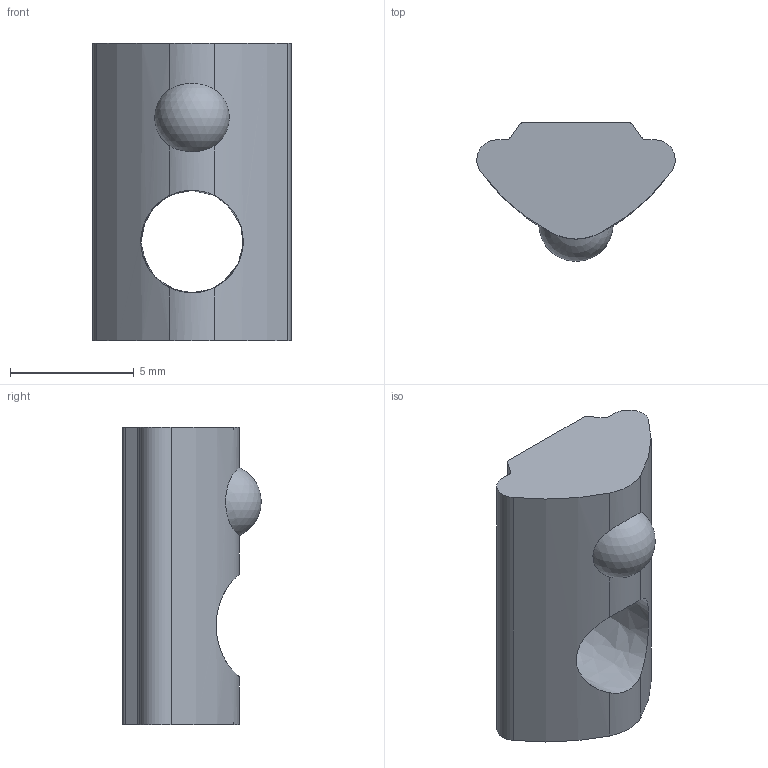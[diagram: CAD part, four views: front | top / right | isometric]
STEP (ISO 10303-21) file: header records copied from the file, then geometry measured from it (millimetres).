
FILE_DESCRIPTION((''),'2;1');
FILE_NAME('K:\Technik\CAD-Daten\EOAT\GR01_\GR01.071\GR01.071.stp','2007-09-07T10:06:33',('RKob'),(''),'Autodesk Inventor 11','Autodesk Inventor 11','');
FILE_SCHEMA(('AUTOMOTIVE_DESIGN { 1 0 10303 214 1 1 1 1 }'));
Length unit declared in the file: millimetre
Products named in the file (1): GR01
Bounding box: 8 x 5.6 x 12 mm (x, y, z)
Volume: 265.3 mm3; surface area: 327.2 mm2
Topology: 1 solids, 1 shells, 20 faces, 57 edges, 38 vertices
Faces by surface type: cylinder 11, plane 7, sphere 1, bspline 1
Entity records: 820 total; most frequent: CARTESIAN_POINT 280, ORIENTED_EDGE 110, DIRECTION 106, EDGE_CURVE 55, AXIS2_PLACEMENT_3D 39, VERTEX_POINT 37, VECTOR 28, LINE 28
